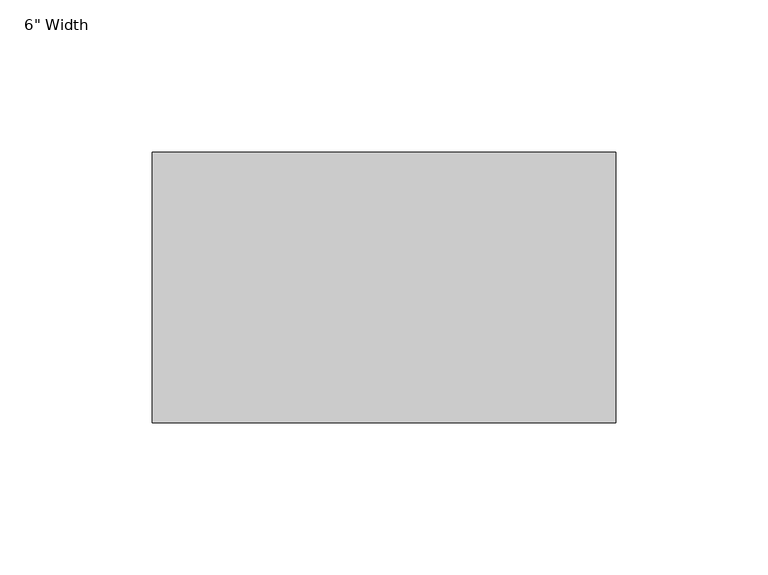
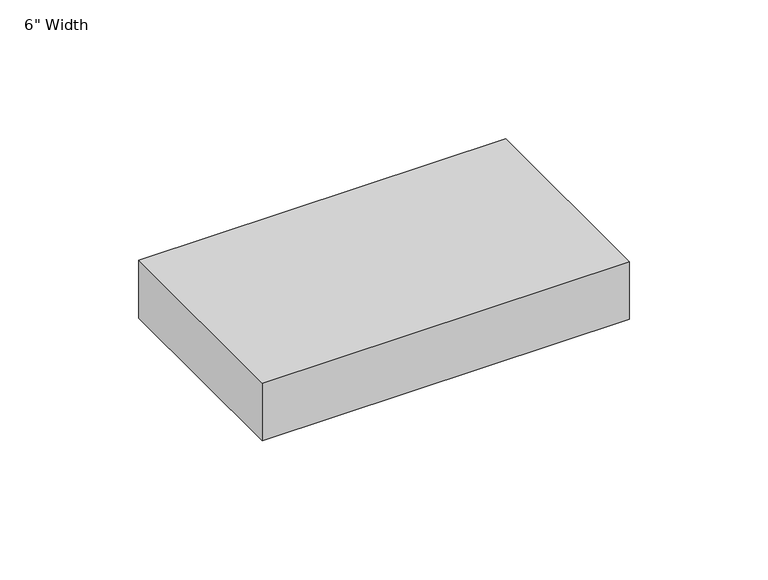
"""IFC4 building model written with IfcOpenShell, lengths in millimetres: proxy geometry."""

from ifc_helpers import new_model, si_unit, origin, origin_with_axes, place, context, project, spatial, polyline, outline, extrude, source, transform, mapped, element, save


def proxy_f1c07713(model_context):
    return source(origin(), model_context, "Body", "SweptSolid", [
        extrude(outline(polyline([(76.2, 44.45), (76.2, -44.45), (-76.2, -44.45), (-76.2, 44.45), (76.2, 44.45)])), origin_with_axes(), (0.0, 0.0, 1.0), 25.4),
    ])


if __name__ == "__main__":
    model = new_model("IFC4")
    model_context = context("Model", 3, world=origin())
    ifc_project = project(units=[si_unit("LENGTHUNIT", "METRE", prefix="MILLI")], contexts=[model_context])
    site = spatial("IfcSite", under=ifc_project)
    building = spatial("IfcBuilding", under=site)
    placement = place(None, origin())
    proxy_shape = proxy_f1c07713(model_context)
    element("IfcBuildingElementProxy", 1, Name="Cabinet_Connector-Wallduct-Wiremold-Drop_Out : 6\" Width", ObjectType="Cabinet_Connector-Wallduct-Wiremold-Drop_Out : 6\" Width", at=placement, inside=building, context=model_context, shape_type="MappedRepresentation", body=[
        mapped(proxy_shape, transform((0.0, 0.0, 0.0), x_axis=(1.0, 0.0, 0.0), y_axis=(0.0, 1.0, 0.0), z_axis=(0.0, 0.0, 1.0))),
    ])
    save(model, "model.ifc")
